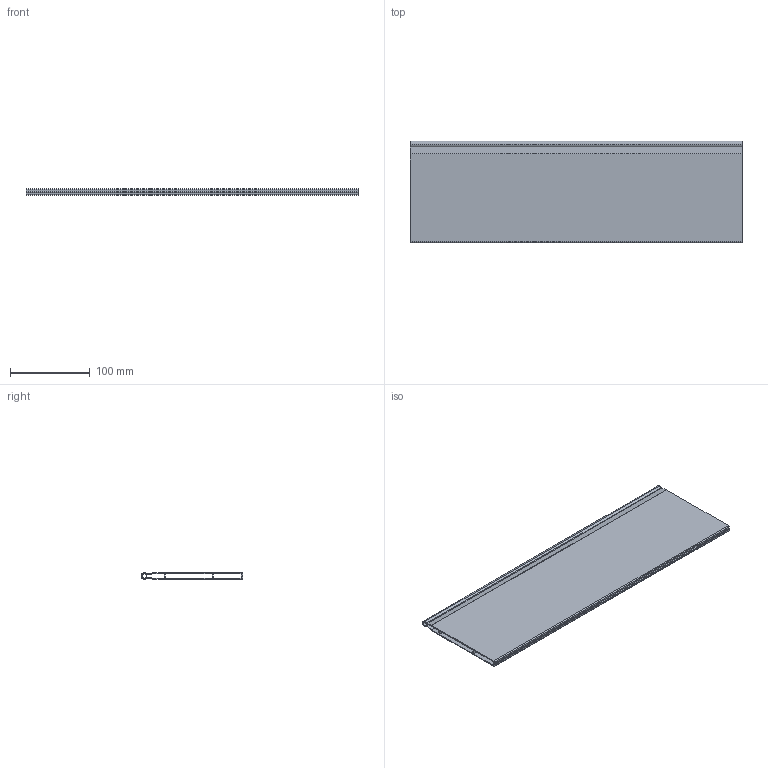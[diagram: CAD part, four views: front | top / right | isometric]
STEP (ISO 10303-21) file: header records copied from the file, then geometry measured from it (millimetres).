
FILE_DESCRIPTION (( 'STEP AP214' ), '1' );
FILE_NAME ('_Magic Optima Unterteilungsprofil DWD XP KAB 550.step', '2010-08-17T12:26:36', ( 'grass' ), ( '' ), 'SwSTEP 2.0', 'SolidWorks 2010', '' );
FILE_SCHEMA (( 'AUTOMOTIVE_DESIGN' ));
Length unit declared in the file: millimetre
Products named in the file (1): _Magic Optima Unterteilungsprofil DWD XP  KAB 550
Bounding box: 416 x 127.7 x 8.1 mm (x, y, z)
Volume: 145817.7 mm3; surface area: 226255.7 mm2
Topology: 1 solids, 1 shells, 39 faces, 111 edges, 74 vertices
Faces by surface type: plane 22, cylinder 17
Entity records: 1325 total; most frequent: CARTESIAN_POINT 225, DIRECTION 225, ORIENTED_EDGE 222, EDGE_CURVE 111, VECTOR 77, LINE 77, AXIS2_PLACEMENT_3D 74, VERTEX_POINT 74
